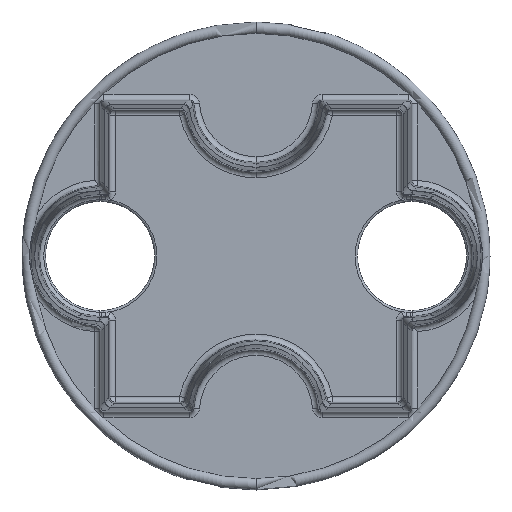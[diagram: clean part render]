
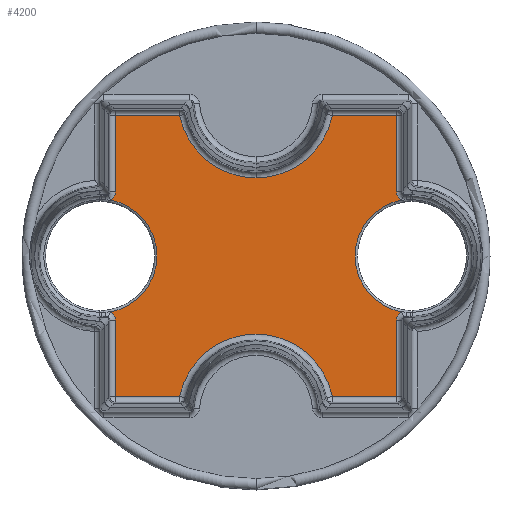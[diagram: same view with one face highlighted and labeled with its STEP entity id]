
A CAD part, front view. The second image highlights one B-rep face of the part: STEP entity #4200.
In plain terms, the highlighted planar face has unit normal (0, -1, 0).
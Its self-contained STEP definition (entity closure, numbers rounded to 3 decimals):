
#59 = CARTESIAN_POINT ( 'NONE',  ( -37.274, -2., -14.343 ) ) ;
#100 = EDGE_CURVE ( 'NONE', #1342, #5439, #1574, .T. ) ;
#339 = DIRECTION ( 'NONE',  ( 0., 0., -1. ) ) ;
#364 = EDGE_CURVE ( 'NONE', #5326, #6473, #4813, .T. ) ;
#416 = EDGE_CURVE ( 'NONE', #5439, #6994, #1320, .T. ) ;
#419 = CIRCLE ( 'NONE', #1417, 19.974 ) ;
#489 = DIRECTION ( 'NONE',  ( 0., 1., 0. ) ) ;
#536 = DIRECTION ( 'NONE',  ( 0., 0., -1. ) ) ;
#598 = VECTOR ( 'NONE', #2941, 1000. ) ;
#623 = AXIS2_PLACEMENT_3D ( 'NONE', #4301, #6532, #5411 ) ;
#736 = EDGE_CURVE ( 'NONE', #6122, #5554, #1822, .T. ) ;
#812 = DIRECTION ( 'NONE',  ( -1., 0., 0. ) ) ;
#850 = DIRECTION ( 'NONE',  ( 0., 0., -1. ) ) ;
#889 = ORIENTED_EDGE ( 'NONE', *, *, #364, .T. ) ;
#913 = ORIENTED_EDGE ( 'NONE', *, *, #2451, .T. ) ;
#917 = DIRECTION ( 'NONE',  ( 0., -1., 0. ) ) ;
#961 = CIRCLE ( 'NONE', #5109, 19.974 ) ;
#971 = DIRECTION ( 'NONE',  ( -1., 0., 0. ) ) ;
#975 = ORIENTED_EDGE ( 'NONE', *, *, #5972, .T. ) ;
#1055 = CARTESIAN_POINT ( 'NONE',  ( -40., -2., 0. ) ) ;
#1084 = ORIENTED_EDGE ( 'NONE', *, *, #7081, .T. ) ;
#1161 = VERTEX_POINT ( 'NONE', #5878 ) ;
#1177 = CARTESIAN_POINT ( 'NONE',  ( 36.026, -2., -36.026 ) ) ;
#1320 = LINE ( 'NONE', #4226, #7082 ) ;
#1342 = VERTEX_POINT ( 'NONE', #59 ) ;
#1375 = CARTESIAN_POINT ( 'NONE',  ( -36.026, -2., 16.492 ) ) ;
#1417 = AXIS2_PLACEMENT_3D ( 'NONE', #4460, #3339, #3307 ) ;
#1419 = VERTEX_POINT ( 'NONE', #1177 ) ;
#1470 = DIRECTION ( 'NONE',  ( 1., 0., 0. ) ) ;
#1501 = DIRECTION ( 'NONE',  ( 0., 0., -1. ) ) ;
#1568 = ORIENTED_EDGE ( 'NONE', *, *, #6805, .T. ) ;
#1574 = CIRCLE ( 'NONE', #623, 2.474 ) ;
#1645 = ORIENTED_EDGE ( 'NONE', *, *, #736, .T. ) ;
#1702 = CARTESIAN_POINT ( 'NONE',  ( -36.026, -2., 16.492 ) ) ;
#1722 = EDGE_CURVE ( 'NONE', #6994, #5563, #5232, .T. ) ;
#1815 = VECTOR ( 'NONE', #812, 1000. ) ;
#1822 = CIRCLE ( 'NONE', #1939, 2.474 ) ;
#1836 = AXIS2_PLACEMENT_3D ( 'NONE', #4300, #917, #1501 ) ;
#1839 = EDGE_CURVE ( 'NONE', #4822, #5326, #961, .T. ) ;
#1916 = VERTEX_POINT ( 'NONE', #6590 ) ;
#1939 = AXIS2_PLACEMENT_3D ( 'NONE', #3301, #3234, #3865 ) ;
#1947 = EDGE_CURVE ( 'NONE', #1916, #6122, #4258, .T. ) ;
#2001 = VECTOR ( 'NONE', #3619, 1000. ) ;
#2053 = CARTESIAN_POINT ( 'NONE',  ( 19.575, -2., -36.026 ) ) ;
#2093 = CARTESIAN_POINT ( 'NONE',  ( 18.33, -2., 36.026 ) ) ;
#2095 = DIRECTION ( 'NONE',  ( 0., 1., 0. ) ) ;
#2097 = ORIENTED_EDGE ( 'NONE', *, *, #5015, .T. ) ;
#2117 = EDGE_CURVE ( 'NONE', #3129, #4822, #3904, .T. ) ;
#2198 = CARTESIAN_POINT ( 'NONE',  ( 36.026, -2., 16.492 ) ) ;
#2220 = CARTESIAN_POINT ( 'NONE',  ( 38.5, -2., 16.492 ) ) ;
#2293 = ORIENTED_EDGE ( 'NONE', *, *, #1947, .T. ) ;
#2373 = LINE ( 'NONE', #5884, #2001 ) ;
#2398 = CARTESIAN_POINT ( 'NONE',  ( 0., -2., 20.026 ) ) ;
#2451 = EDGE_CURVE ( 'NONE', #6473, #1916, #5662, .T. ) ;
#2467 = CARTESIAN_POINT ( 'NONE',  ( -37.5, -2., 36.026 ) ) ;
#2475 = CARTESIAN_POINT ( 'NONE',  ( 37.274, -2., -14.343 ) ) ;
#2503 = DIRECTION ( 'NONE',  ( 0., 0., -1. ) ) ;
#2600 = LINE ( 'NONE', #4502, #4516 ) ;
#2637 = ORIENTED_EDGE ( 'NONE', *, *, #1839, .T. ) ;
#2657 = ORIENTED_EDGE ( 'NONE', *, *, #100, .T. ) ;
#2941 = DIRECTION ( 'NONE',  ( 0., 0., 1. ) ) ;
#2958 = CARTESIAN_POINT ( 'NONE',  ( 40., -2., 0. ) ) ;
#3054 = DIRECTION ( 'NONE',  ( 0., 1., 0. ) ) ;
#3116 = DIRECTION ( 'NONE',  ( 0., 1., 0. ) ) ;
#3129 = VERTEX_POINT ( 'NONE', #3491 ) ;
#3234 = DIRECTION ( 'NONE',  ( 0., 1., 0. ) ) ;
#3301 = CARTESIAN_POINT ( 'NONE',  ( -38.5, -2., 16.492 ) ) ;
#3307 = DIRECTION ( 'NONE',  ( 0., 0., -1. ) ) ;
#3313 = DIRECTION ( 'NONE',  ( 0., 0., -1. ) ) ;
#3330 = CIRCLE ( 'NONE', #5923, 14.6 ) ;
#3332 = VERTEX_POINT ( 'NONE', #2053 ) ;
#3339 = DIRECTION ( 'NONE',  ( 0., 1., 0. ) ) ;
#3354 = AXIS2_PLACEMENT_3D ( 'NONE', #6952, #3116, #339 ) ;
#3364 = LINE ( 'NONE', #4642, #598 ) ;
#3404 = CARTESIAN_POINT ( 'NONE',  ( 19.575, -2., 36.026 ) ) ;
#3470 = CIRCLE ( 'NONE', #7070, 14.6 ) ;
#3491 = CARTESIAN_POINT ( 'NONE',  ( 36.026, -2., 36.026 ) ) ;
#3495 = VECTOR ( 'NONE', #2503, 1000. ) ;
#3509 = EDGE_CURVE ( 'NONE', #3332, #1419, #2600, .T. ) ;
#3512 = ORIENTED_EDGE ( 'NONE', *, *, #4026, .T. ) ;
#3592 = DIRECTION ( 'NONE',  ( 0., 1., 0. ) ) ;
#3619 = DIRECTION ( 'NONE',  ( 0., 0., 1. ) ) ;
#3632 = CARTESIAN_POINT ( 'NONE',  ( 36.026, -2., -16.492 ) ) ;
#3653 = VECTOR ( 'NONE', #971, 1000. ) ;
#3796 = EDGE_CURVE ( 'NONE', #6734, #3129, #2373, .T. ) ;
#3865 = DIRECTION ( 'NONE',  ( 0., 0., -1. ) ) ;
#3904 = LINE ( 'NONE', #2093, #3653 ) ;
#3910 = VECTOR ( 'NONE', #1470, 1000. ) ;
#4026 = EDGE_CURVE ( 'NONE', #1161, #6734, #5506, .T. ) ;
#4033 = DIRECTION ( 'NONE',  ( 1., 0., 0. ) ) ;
#4098 = DIRECTION ( 'NONE',  ( 0., 0., -1. ) ) ;
#4125 = ORIENTED_EDGE ( 'NONE', *, *, #1722, .T. ) ;
#4134 = CARTESIAN_POINT ( 'NONE',  ( -18.33, -2., -36.026 ) ) ;
#4200 = ADVANCED_FACE ( 'NONE', ( #6109 ), #4855, .T. ) ;
#4226 = CARTESIAN_POINT ( 'NONE',  ( -36.026, -2., -37.5 ) ) ;
#4258 = LINE ( 'NONE', #1375, #3495 ) ;
#4300 = CARTESIAN_POINT ( 'NONE',  ( -57.086, -2., 0. ) ) ;
#4301 = CARTESIAN_POINT ( 'NONE',  ( -38.5, -2., -16.492 ) ) ;
#4440 = CARTESIAN_POINT ( 'NONE',  ( 0., -2., 40. ) ) ;
#4442 = CARTESIAN_POINT ( 'NONE',  ( -19.575, -2., -36.026 ) ) ;
#4460 = CARTESIAN_POINT ( 'NONE',  ( 0., -2., -40. ) ) ;
#4502 = CARTESIAN_POINT ( 'NONE',  ( 37.5, -2., -36.026 ) ) ;
#4516 = VECTOR ( 'NONE', #4033, 1000. ) ;
#4604 = AXIS2_PLACEMENT_3D ( 'NONE', #2220, #6094, #3313 ) ;
#4625 = ORIENTED_EDGE ( 'NONE', *, *, #416, .T. ) ;
#4642 = CARTESIAN_POINT ( 'NONE',  ( 36.026, -2., -16.492 ) ) ;
#4705 = CARTESIAN_POINT ( 'NONE',  ( -36.026, -2., -16.492 ) ) ;
#4724 = ORIENTED_EDGE ( 'NONE', *, *, #2117, .T. ) ;
#4738 = EDGE_LOOP ( 'NONE', ( #5245, #3512, #5005, #4724, #2637, #889, #913, #2293, #1645, #975, #2657, #4625, #4125, #1084, #5230, #1568, #2097 ) ) ;
#4813 = CIRCLE ( 'NONE', #3354, 19.974 ) ;
#4822 = VERTEX_POINT ( 'NONE', #3404 ) ;
#4855 = PLANE ( 'NONE',  #1836 ) ;
#4875 = EDGE_CURVE ( 'NONE', #4939, #1161, #3330, .T. ) ;
#4939 = VERTEX_POINT ( 'NONE', #2475 ) ;
#5005 = ORIENTED_EDGE ( 'NONE', *, *, #3796, .T. ) ;
#5015 = EDGE_CURVE ( 'NONE', #6274, #4939, #6135, .T. ) ;
#5109 = AXIS2_PLACEMENT_3D ( 'NONE', #4440, #2095, #536 ) ;
#5230 = ORIENTED_EDGE ( 'NONE', *, *, #3509, .T. ) ;
#5232 = LINE ( 'NONE', #4134, #3910 ) ;
#5245 = ORIENTED_EDGE ( 'NONE', *, *, #4875, .T. ) ;
#5326 = VERTEX_POINT ( 'NONE', #2398 ) ;
#5351 = CARTESIAN_POINT ( 'NONE',  ( 38.5, -2., -16.492 ) ) ;
#5411 = DIRECTION ( 'NONE',  ( 0., 0., -1. ) ) ;
#5439 = VERTEX_POINT ( 'NONE', #4705 ) ;
#5506 = CIRCLE ( 'NONE', #4604, 2.474 ) ;
#5554 = VERTEX_POINT ( 'NONE', #5598 ) ;
#5563 = VERTEX_POINT ( 'NONE', #4442 ) ;
#5598 = CARTESIAN_POINT ( 'NONE',  ( -37.274, -2., 14.343 ) ) ;
#5615 = CARTESIAN_POINT ( 'NONE',  ( -19.575, -2., 36.026 ) ) ;
#5662 = LINE ( 'NONE', #2467, #1815 ) ;
#5878 = CARTESIAN_POINT ( 'NONE',  ( 37.274, -2., 14.343 ) ) ;
#5884 = CARTESIAN_POINT ( 'NONE',  ( 36.026, -2., 37.5 ) ) ;
#5923 = AXIS2_PLACEMENT_3D ( 'NONE', #2958, #3592, #4098 ) ;
#5972 = EDGE_CURVE ( 'NONE', #5554, #1342, #3470, .T. ) ;
#6094 = DIRECTION ( 'NONE',  ( 0., 1., 0. ) ) ;
#6109 = FACE_OUTER_BOUND ( 'NONE', #4738, .T. ) ;
#6122 = VERTEX_POINT ( 'NONE', #1702 ) ;
#6135 = CIRCLE ( 'NONE', #6500, 2.474 ) ;
#6274 = VERTEX_POINT ( 'NONE', #3632 ) ;
#6473 = VERTEX_POINT ( 'NONE', #5615 ) ;
#6500 = AXIS2_PLACEMENT_3D ( 'NONE', #5351, #3054, #6967 ) ;
#6532 = DIRECTION ( 'NONE',  ( 0., 1., 0. ) ) ;
#6538 = CARTESIAN_POINT ( 'NONE',  ( -36.026, -2., -36.026 ) ) ;
#6590 = CARTESIAN_POINT ( 'NONE',  ( -36.026, -2., 36.026 ) ) ;
#6661 = DIRECTION ( 'NONE',  ( 0., 0., -1. ) ) ;
#6734 = VERTEX_POINT ( 'NONE', #2198 ) ;
#6805 = EDGE_CURVE ( 'NONE', #1419, #6274, #3364, .T. ) ;
#6952 = CARTESIAN_POINT ( 'NONE',  ( 0., -2., 40. ) ) ;
#6967 = DIRECTION ( 'NONE',  ( 0., 0., -1. ) ) ;
#6994 = VERTEX_POINT ( 'NONE', #6538 ) ;
#7070 = AXIS2_PLACEMENT_3D ( 'NONE', #1055, #489, #6661 ) ;
#7081 = EDGE_CURVE ( 'NONE', #5563, #3332, #419, .T. ) ;
#7082 = VECTOR ( 'NONE', #850, 1000. ) ;
